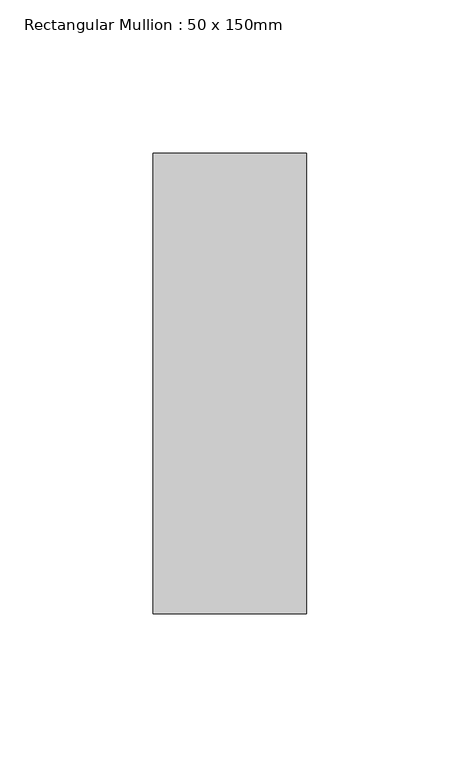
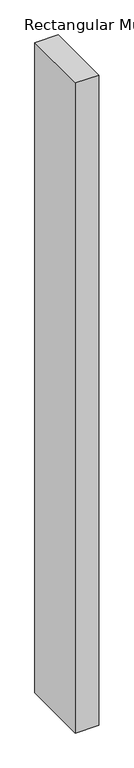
"""IFC4 building model written with IfcOpenShell, lengths in millimetres: member geometry, Rectangular Mullion : 50 x 150mm."""

from ifc_helpers import new_model, si_unit, frame, origin, place, context, project, spatial, polyline, outline, extrude, source, transform, mapped, element, save


def rectangular_mullion_50_x_150mm_5da8f88f(model_context):
    return source(origin(), model_context, "Body", "SweptSolid", [
        extrude(outline(polyline([(0.0, 75.0), (0.0, -75.0), (-50.0, -75.0), (-50.0, 75.0), (0.0, 75.0)])), frame((0.0, 0.0, -1474.0), z_axis=(0.0, 0.0, 1.0), x_axis=(1.0, 0.0, 0.0)), (0.0, 0.0, 1.0), 1474.0),
    ])


if __name__ == "__main__":
    model = new_model("IFC4")
    model_context = context("Model", 3, world=origin())
    ifc_project = project(units=[si_unit("LENGTHUNIT", "METRE", prefix="MILLI")], contexts=[model_context])
    site = spatial("IfcSite", under=ifc_project)
    building = spatial("IfcBuilding", under=site)
    placement = place(None, origin())
    rectangular_mullion_50_x_150mm_shape = rectangular_mullion_50_x_150mm_5da8f88f(model_context)
    element("IfcMember", 1, ObjectType="Rectangular Mullion : 50 x 150mm", at=placement, inside=building, context=model_context, shape_type="MappedRepresentation", body=[
        mapped(rectangular_mullion_50_x_150mm_shape, transform((0.0, 0.0, 0.0), x_axis=(1.0, 0.0, 0.0), y_axis=(0.0, 1.0, 0.0), z_axis=(0.0, 0.0, 1.0))),
    ])
    save(model, "model.ifc")
